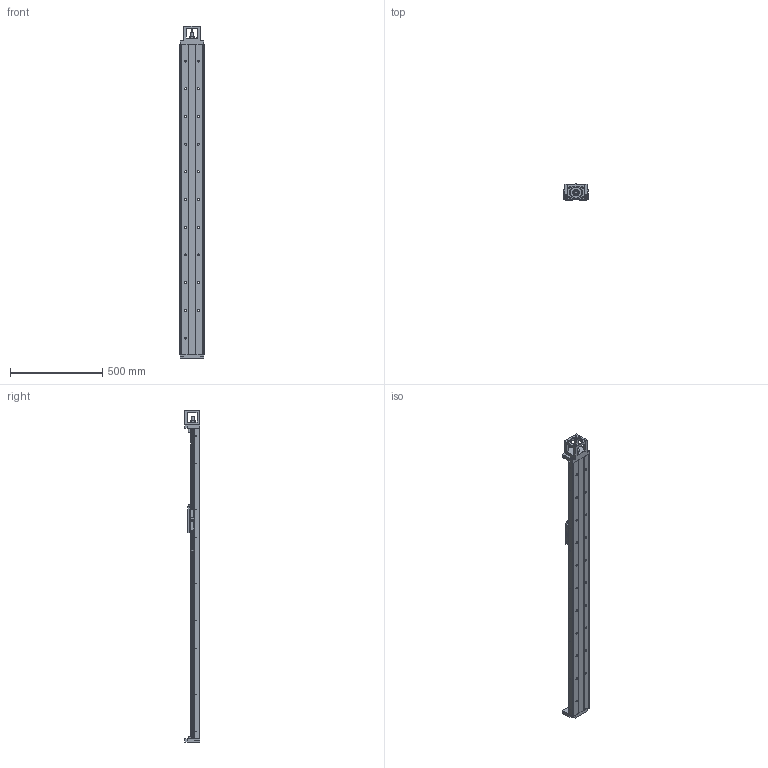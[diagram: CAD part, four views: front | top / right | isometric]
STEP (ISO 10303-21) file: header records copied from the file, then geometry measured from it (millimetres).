
FILE_DESCRIPTION(/* description */ (''),/* implementation_level */ '2;1');
FILE_NAME(/* name */ 'TKK130-1680A1F0_stp.stp',/* time_stamp */ '2017-08-18T10:38:09+08:00',/* author */ (''),/* organization */ (''),/* preprocessor_version */ 'ST-DEVELOPER v15',/* originating_system */ 'SIEMENS PLM Software NX 8.5',/* authorisation */ '');
FILE_SCHEMA (('AUTOMOTIVE_DESIGN { 1 0 10303 214 3 1 1 1 }'));
Length unit declared in the file: millimetre
Products named in the file (3): 02; 01; TKK130-1680A1F0_stp
Assembly tree (2 placements, depth 2):
  TKK130-1680A1F0_stp
    01
    02
Bounding box: 130 x 85 x 1798 mm (x, y, z)
Volume: 6536709.3 mm3; surface area: 1051032.4 mm2
Topology: 2 solids, 15 shells, 967 faces, 2598 edges, 1688 vertices
Faces by surface type: plane 543, cylinder 285, cone 99, extrusion 33, bspline 6, torus 1
Full cylindrical faces by diameter (mm): 2.1 x18, 2.5 x4, 3.3 x33, 4.5 x16, 5 x23, 6.6 x10, 6.8 x8, 7 x2, 8 x8, 8.5 x4, 9 x8, 11 x25, 12 x4, 15 x1, 16.3 x1, 17 x24, 25 x1, 35 x2, 40 x3, 60.03 x1, 70.03 x1
Entity records: 29607 total; most frequent: CARTESIAN_POINT 6409, DIRECTION 4488, ORIENTED_EDGE 4216, EDGE_CURVE 2108, VERTEX_POINT 1568, AXIS2_PLACEMENT_3D 1563, EDGE_LOOP 1391, VECTOR 1362
